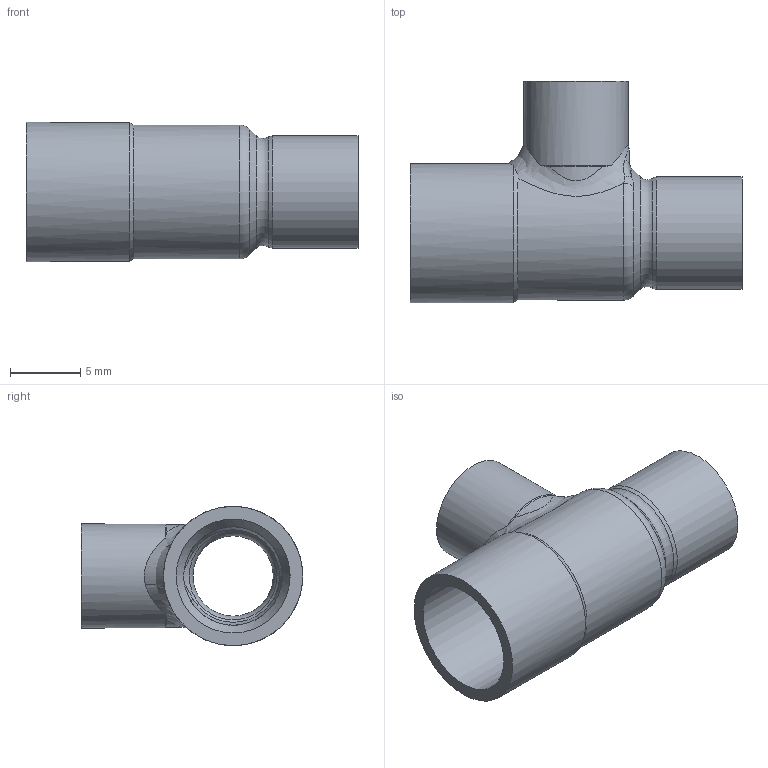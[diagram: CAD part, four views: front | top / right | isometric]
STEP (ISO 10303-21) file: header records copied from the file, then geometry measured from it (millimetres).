
FILE_DESCRIPTION((''),'2;1');
FILE_NAME('G:\SANHA-Ternat\Technik\Management\Bouwmaten + markeringen\z-maattekeningen 3D\5000\5130\5130866.stp','2016-10-13T15:25:25',('vdvijverd'),(''),'Autodesk Inventor 2009','Autodesk Inventor 2009','');
FILE_SCHEMA(('AUTOMOTIVE_DESIGN { 1 0 10303 214 1 1 1 1 }'));
Length unit declared in the file: millimetre
Products named in the file (1): 5130866
Bounding box: 23.6 x 15.75 x 9.9 mm (x, y, z)
Volume: 696.9 mm3; surface area: 1504.9 mm2
Topology: 1 solids, 1 shells, 40 faces, 98 edges, 60 vertices
Faces by surface type: cylinder 12, bspline 11, cone 9, torus 4, plane 4
Full cylindrical faces by diameter (mm): 6.1 x2, 7.4 x1, 8 x1, 8.1 x1, 9.9 x1
Entity records: 3035 total; most frequent: CARTESIAN_POINT 2236, ORIENTED_EDGE 156, DIRECTION 140, EDGE_CURVE 78, AXIS2_PLACEMENT_3D 70, EDGE_LOOP 58, VERTEX_POINT 54, CIRCLE 40
